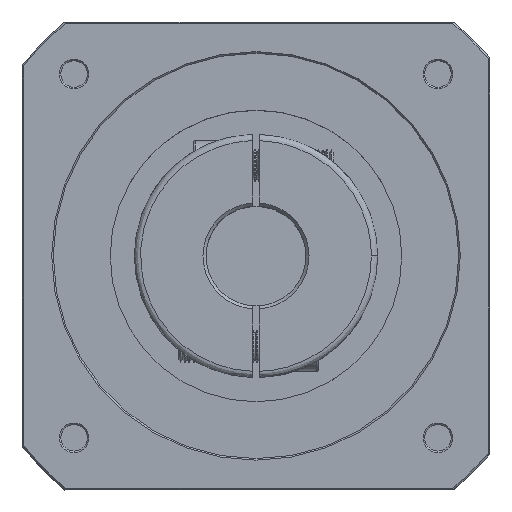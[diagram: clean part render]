
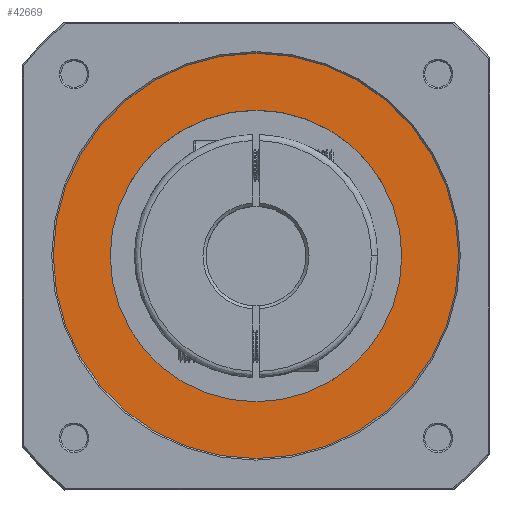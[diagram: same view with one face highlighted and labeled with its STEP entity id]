
A CAD part, top view. The second image highlights one B-rep face of the part: STEP entity #42669.
In plain terms, the highlighted planar face has unit normal (0, 0, -1).
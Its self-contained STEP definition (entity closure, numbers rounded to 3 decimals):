
#814 = DIRECTION ( 'NONE',  ( 1., 0., 0. ) ) ;
#1748 = DIRECTION ( 'NONE',  ( 1., 0., 0. ) ) ;
#2119 = VERTEX_POINT ( 'NONE', #60911 ) ;
#2275 = EDGE_CURVE ( 'NONE', #14474, #53617, #38887, .T. ) ;
#4251 = CARTESIAN_POINT ( 'NONE',  ( -46.75, 0., 157.5 ) ) ;
#6523 = VERTEX_POINT ( 'NONE', #4251 ) ;
#10554 = EDGE_CURVE ( 'NONE', #53617, #14474, #28584, .T. ) ;
#13280 = ORIENTED_EDGE ( 'NONE', *, *, #2275, .T. ) ;
#14042 = CARTESIAN_POINT ( 'NONE',  ( -65.78, -65.78, 157.5 ) ) ;
#14474 = VERTEX_POINT ( 'NONE', #17446 ) ;
#14864 = EDGE_CURVE ( 'NONE', #6523, #2119, #48587, .T. ) ;
#16329 = AXIS2_PLACEMENT_3D ( 'NONE', #14042, #62159, #20941 ) ;
#16991 = AXIS2_PLACEMENT_3D ( 'NONE', #24860, #72995, #31800 ) ;
#17446 = CARTESIAN_POINT ( 'NONE',  ( 65., 0., 157.5 ) ) ;
#20941 = DIRECTION ( 'NONE',  ( 1., 0., 0. ) ) ;
#23086 = CARTESIAN_POINT ( 'NONE',  ( 0., 0., 157.5 ) ) ;
#23988 = AXIS2_PLACEMENT_3D ( 'NONE', #84024, #42913, #1748 ) ;
#24860 = CARTESIAN_POINT ( 'NONE',  ( 0., 0., 157.5 ) ) ;
#27577 = EDGE_CURVE ( 'NONE', #2119, #6523, #76255, .T. ) ;
#28584 = CIRCLE ( 'NONE', #23988, 65. ) ;
#30024 = DIRECTION ( 'NONE',  ( -1., 0., 0. ) ) ;
#31800 = DIRECTION ( 'NONE',  ( -1., 0., 0. ) ) ;
#32956 = EDGE_LOOP ( 'NONE', ( #13280, #48240 ) ) ;
#33129 = FACE_BOUND ( 'NONE', #85951, .T. ) ;
#38887 = CIRCLE ( 'NONE', #81671, 65. ) ;
#41991 = DIRECTION ( 'NONE',  ( 0., 0., -1. ) ) ;
#42669 = ADVANCED_FACE ( 'NONE', ( #33129, #49310 ), #47490, .F. ) ;
#42913 = DIRECTION ( 'NONE',  ( 0., 0., -1. ) ) ;
#47490 = PLANE ( 'NONE',  #16329 ) ;
#48037 = ORIENTED_EDGE ( 'NONE', *, *, #27577, .T. ) ;
#48240 = ORIENTED_EDGE ( 'NONE', *, *, #10554, .T. ) ;
#48587 = CIRCLE ( 'NONE', #70421, 46.75 ) ;
#49310 = FACE_OUTER_BOUND ( 'NONE', #32956, .T. ) ;
#53617 = VERTEX_POINT ( 'NONE', #69853 ) ;
#60911 = CARTESIAN_POINT ( 'NONE',  ( 46.75, 0., 157.5 ) ) ;
#62159 = DIRECTION ( 'NONE',  ( 0., 0., 1. ) ) ;
#69853 = CARTESIAN_POINT ( 'NONE',  ( -65., 0., 157.5 ) ) ;
#70421 = AXIS2_PLACEMENT_3D ( 'NONE', #23086, #71221, #30024 ) ;
#71221 = DIRECTION ( 'NONE',  ( 0., 0., 1. ) ) ;
#72995 = DIRECTION ( 'NONE',  ( 0., 0., 1. ) ) ;
#76255 = CIRCLE ( 'NONE', #16991, 46.75 ) ;
#79835 = ORIENTED_EDGE ( 'NONE', *, *, #14864, .T. ) ;
#81671 = AXIS2_PLACEMENT_3D ( 'NONE', #83081, #41991, #814 ) ;
#83081 = CARTESIAN_POINT ( 'NONE',  ( 0., 0., 157.5 ) ) ;
#84024 = CARTESIAN_POINT ( 'NONE',  ( 0., 0., 157.5 ) ) ;
#85951 = EDGE_LOOP ( 'NONE', ( #79835, #48037 ) ) ;
